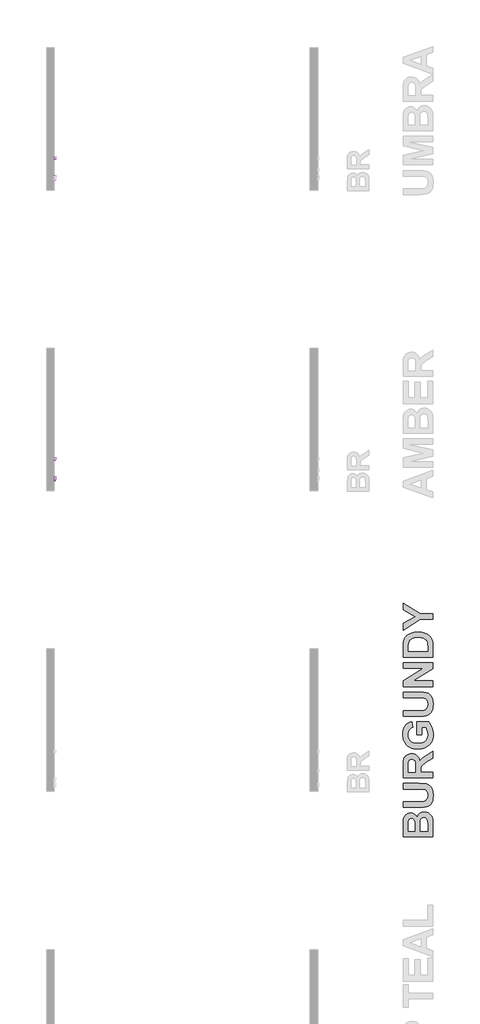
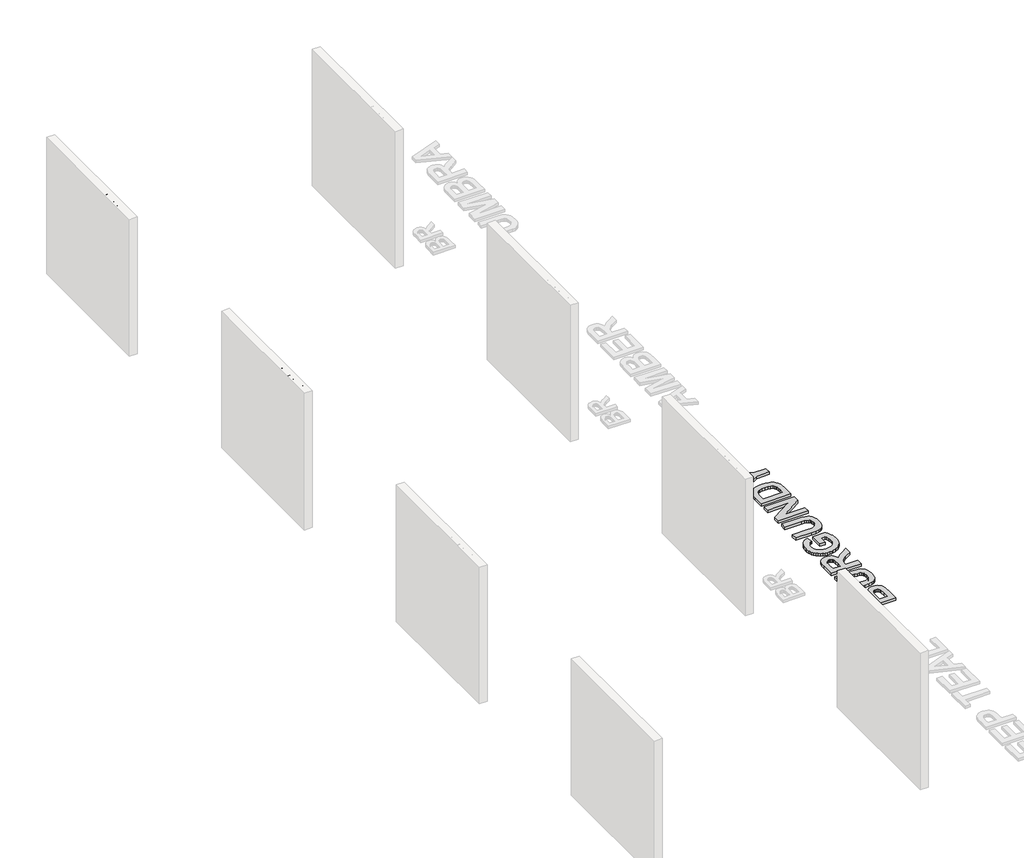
# One storey, part 7 of 10: 6 proxies.
"""IFC4 building model written with IfcOpenShell, lengths in millimetres."""

from ifc_helpers import new_model, si_unit, frame, origin, origin_with_axes, place, context, project, spatial, polyline, outline, extrude, element, save

model = new_model("IFC4")

# Units and contexts
model_context = context("Model", 3, world=origin())
ifc_project = project(units=[si_unit("LENGTHUNIT", "METRE", prefix="MILLI")], contexts=[model_context])

# Site, building, storey
site = spatial("IfcSite", under=ifc_project)
building = spatial("IfcBuilding", under=site)
storey = spatial("IfcBuildingStorey", under=building, Name="PORTOBELLO - SHOWROOM", Elevation=0.0)

# Proxies
placement = place(None, origin())
element("IfcBuildingElementProxy", 1, Name="10mm Arial", ObjectType="10mm Arial", at=placement, inside=storey, context=model_context, shape_type="SweptSolid", body=[
    extrude(outline(polyline([(9453.3480795, 2518.4745677), (9493.447217, 2618.9308778), (9504.1403203, 2618.9308778), (9544.2149323, 2518.4745677), (9530.9466551, 2518.4745677), (9519.4687368, 2549.8671646), (9478.0697496, 2549.8671646), (9466.5918314, 2518.4745677), (9453.3480795, 2518.4745677)]), holes=[polyline([(9482.6805373, 2562.4242034), (9514.8824746, 2562.4242034), (9505.808052, 2587.121348), (9498.7692432, 2606.373839), (9492.5152493, 2589.279589), (9482.6805373, 2562.4242034)])]), frame((-12116.0080774, 0.0, 0.0), z_axis=(1.0, 0.0, 0.0), x_axis=(0.0, 1.0, 0.0)), (0.0, 0.0, 1.0), 20.0),
    extrude(outline(polyline([(9556.0607326, 2518.4745677), (9556.0607326, 2592.2471704), (9568.6177714, 2592.2471704), (9568.6177714, 2580.1070646), (9577.2507355, 2590.0521412), (9589.5379942, 2593.8168003), (9602.1195584, 2589.9785648), (9609.0357399, 2579.2241478), (9618.8336637, 2590.1686372), (9631.2067615, 2593.8168003), (9640.6460003, 2592.299287), (9647.6265612, 2587.7467474), (9651.9399776, 2580.0365539), (9653.377783, 2569.0460793), (9653.377783, 2518.4745677), (9640.8207443, 2518.4745677), (9640.8207443, 2563.6504767), (9639.6557846, 2574.1351135), (9635.4374044, 2579.2977242), (9628.2637055, 2581.2597615), (9615.9151332, 2576.2320409), (9612.2271162, 2569.6898728), (9610.9977772, 2560.1188095), (9610.9977772, 2518.4745677), (9598.4407384, 2518.4745677), (9598.4407384, 2565.0484283), (9595.5344707, 2577.2130596), (9586.006327, 2581.2597615), (9576.7111753, 2578.5619602), (9570.5307577, 2570.66476), (9568.6177714, 2555.6797001), (9568.6177714, 2518.4745677), (9556.0607326, 2518.4745677)])), frame((-12116.0080774, 0.0, 0.0), z_axis=(1.0, 0.0, 0.0), x_axis=(0.0, 1.0, 0.0)), (0.0, 0.0, 1.0), 20.0),
    extrude(outline(polyline([(9684.77038, 2518.4745677), (9672.2133412, 2518.4745677), (9672.2133412, 2618.9308778), (9684.77038, 2618.9308778), (9684.77038, 2581.6766944), (9693.5627597, 2590.7817738), (9704.4888549, 2593.8168003), (9717.0704191, 2591.0822108), (9726.8315548, 2583.3934771), (9732.8280313, 2571.4373122), (9734.998535, 2556.464515), (9732.7513892, 2539.7013588), (9726.0099516, 2527.2301591), (9716.1169916, 2519.4862431), (9704.4152785, 2516.9049378), (9693.25006, 2520.2342699), (9684.77038, 2530.222266), (9684.77038, 2518.4745677)]), holes=[polyline([(9684.77038, 2555.8759038), (9688.2039453, 2538.3156699), (9694.7829016, 2531.6753999), (9703.336158, 2529.4619766), (9710.5834333, 2531.0929201), (9716.7761135, 2535.9857506), (9721.0251506, 2544.1098114), (9722.4414963, 2555.4344454), (9721.0833986, 2566.9246264), (9717.0091055, 2574.9567167), (9711.0095633, 2579.6840003), (9703.8757183, 2581.2597615), (9696.6284429, 2579.628818), (9690.4357627, 2574.7359875), (9686.1867257, 2566.7590795), (9684.77038, 2555.8759038)])]), frame((-12116.0080774, 0.0, 0.0), z_axis=(1.0, 0.0, 0.0), x_axis=(0.0, 1.0, 0.0)), (0.0, 0.0, 1.0), 20.0),
    extrude(outline(polyline([(9800.7758358, 2540.4493855), (9813.0876199, 2538.8797557), (9808.6515762, 2529.602998), (9801.5729134, 2522.6684224), (9792.0110472, 2518.345809), (9780.1253931, 2516.9049378), (9765.3917192, 2519.391207), (9754.0548224, 2526.8500144), (9746.8259412, 2538.7969822), (9744.4163141, 2554.7477324), (9746.8504667, 2571.2349771), (9754.1529243, 2583.5651553), (9765.3365369, 2591.253889), (9779.4141546, 2593.8168003), (9793.0533796, 2591.2600204), (9803.9518837, 2583.5896808), (9811.0979914, 2571.2840281), (9813.4800273, 2554.8213088), (9813.4064509, 2551.4367944), (9756.9733529, 2551.4367944), (9759.1469223, 2542.0374095), (9764.1961027, 2535.1273593), (9771.4832319, 2530.8783223), (9780.3706478, 2529.4619766), (9792.6824319, 2532.0862015), (9800.7758358, 2540.4493855)]), holes=[polyline([(9756.9733529, 2563.9938332), (9800.9229886, 2563.9938332), (9795.895268, 2575.3736496), (9788.5744163, 2579.7882335), (9779.3651037, 2581.2597615), (9763.9017971, 2576.5631347), (9759.0365577, 2571.0724959), (9756.9733529, 2563.9938332)])]), frame((-12116.0080774, 0.0, 0.0), z_axis=(1.0, 0.0, 0.0), x_axis=(0.0, 1.0, 0.0)), (0.0, 0.0, 1.0), 20.0),
    extrude(outline(polyline([(9826.0370661, 2518.4745677), (9826.0370661, 2592.2471704), (9837.024475, 2592.2471704), (9837.024475, 2581.3333379), (9844.8235733, 2591.3887791), (9852.6717226, 2593.8168003), (9865.2778123, 2589.9417766), (9861.0839575, 2578.6845875), (9852.2547896, 2581.2597615), (9845.1546671, 2578.7826894), (9840.6297186, 2571.9155588), (9838.5941049, 2557.24933), (9838.5941049, 2518.4745677), (9826.0370661, 2518.4745677)])), frame((-12116.0080774, 0.0, 0.0), z_axis=(1.0, 0.0, 0.0), x_axis=(0.0, 1.0, 0.0)), (0.0, 0.0, 1.0), 20.0),
])
element("IfcBuildingElementProxy", 2, Name="10mm Arial", ObjectType="10mm Arial", at=placement, inside=storey, context=model_context, shape_type="SweptSolid", body=[
    extrude(outline(polyline([(9460.313312, 2410.158275), (9472.8703507, 2411.7279049), (9479.1979211, 2398.7907214), (9492.3190456, 2394.4619766), (9501.3198917, 2395.9672271), (9508.064395, 2400.4829786), (9512.2766438, 2407.4880649), (9513.6807267, 2416.4613199), (9508.4200142, 2431.3728034), (9501.8134667, 2435.4746877), (9492.5152493, 2436.8419824), (9481.4910522, 2434.6592159), (9474.4399806, 2428.9938332), (9461.8829418, 2430.563463), (9472.8703507, 2482.361248), (9521.528876, 2482.361248), (9521.528876, 2469.8042092), (9483.0238938, 2469.8042092), (9477.6282912, 2442.1394832), (9486.5984805, 2447.5841367), (9495.9978655, 2449.3990212), (9507.7333012, 2447.1488097), (9517.482174, 2440.3981751), (9524.0488676, 2430.1097419), (9526.2377655, 2417.2461348), (9524.2695968, 2404.6890961), (9518.3650908, 2393.9469418), (9507.0588508, 2384.9154388), (9492.2699946, 2381.9049378), (9479.9367507, 2383.839384), (9470.1112358, 2389.6427224), (9463.3759296, 2398.6405029), (9460.313312, 2410.158275)])), frame((-12116.0080774, 0.0, 0.0), z_axis=(1.0, 0.0, 0.0), x_axis=(0.0, 1.0, 0.0)), (0.0, 0.0, 1.0), 20.0),
    extrude(outline(polyline([(9543.5036938, 2383.4745677), (9543.5036938, 2396.0316064), (9556.0607326, 2396.0316064), (9556.0607326, 2383.4745677), (9553.8043897, 2370.635486), (9546.6429535, 2363.0693797), (9543.5036938, 2367.7782692), (9548.1144815, 2373.1983973), (9549.7576877, 2383.4745677), (9543.5036938, 2383.4745677)])), frame((-12116.0080774, 0.0, 0.0), z_axis=(1.0, 0.0, 0.0), x_axis=(0.0, 1.0, 0.0)), (0.0, 0.0, 1.0), 20.0),
    extrude(outline(polyline([(9617.2762966, 2383.4745677), (9617.2762966, 2407.0190154), (9571.7570311, 2407.0190154), (9571.7570311, 2419.5760541), (9620.4155563, 2482.361248), (9629.8333354, 2482.361248), (9629.8333354, 2419.5760541), (9642.3903741, 2419.5760541), (9642.3903741, 2407.0190154), (9629.8333354, 2407.0190154), (9629.8333354, 2383.4745677), (9617.2762966, 2383.4745677)]), holes=[polyline([(9617.2762966, 2419.5760541), (9617.2762966, 2458.3753419), (9587.2080748, 2419.5760541), (9617.2762966, 2419.5760541)])]), frame((-12116.0080774, 0.0, 0.0), z_axis=(1.0, 0.0, 0.0), x_axis=(0.0, 1.0, 0.0)), (0.0, 0.0, 1.0), 20.0),
    extrude(outline(polyline([(9648.6688935, 2383.4745677), (9675.4997537, 2420.5815982), (9650.2385234, 2457.2471704), (9665.2971597, 2457.2471704), (9677.4863165, 2439.5643092), (9683.2007501, 2431.2501761), (9688.1548943, 2438.0682557), (9702.0363083, 2457.2471704), (9717.1439955, 2457.2471704), (9690.607441, 2420.5570728), (9716.1629769, 2383.4745677), (9701.0798151, 2383.4745677), (9685.6778222, 2405.792742), (9682.8819191, 2409.8884949), (9663.7765808, 2383.4745677), (9648.6688935, 2383.4745677)])), frame((-12116.0080774, 0.0, 0.0), z_axis=(1.0, 0.0, 0.0), x_axis=(0.0, 1.0, 0.0)), (0.0, 0.0, 1.0), 20.0),
    extrude(outline(polyline([(9771.1000215, 2383.4745677), (9758.5429827, 2383.4745677), (9758.5429827, 2461.7598562), (9746.6481316, 2453.2863076), (9733.4289052, 2446.9464746), (9733.4289052, 2458.8168003), (9751.8352677, 2470.5644987), (9763.0066176, 2483.9308778), (9771.1000215, 2483.9308778), (9771.1000215, 2383.4745677)])), frame((-12116.0080774, 0.0, 0.0), z_axis=(1.0, 0.0, 0.0), x_axis=(0.0, 1.0, 0.0)), (0.0, 0.0, 1.0), 20.0),
    extrude(outline(polyline([(9848.011884, 2383.4745677), (9835.4548452, 2383.4745677), (9835.4548452, 2461.7598562), (9823.559994, 2453.2863076), (9810.3407677, 2446.9464746), (9810.3407677, 2458.8168003), (9828.7471301, 2470.5644987), (9839.9184801, 2483.9308778), (9848.011884, 2483.9308778), (9848.011884, 2383.4745677)])), frame((-12116.0080774, 0.0, 0.0), z_axis=(1.0, 0.0, 0.0), x_axis=(0.0, 1.0, 0.0)), (0.0, 0.0, 1.0), 20.0),
    extrude(outline(polyline([(9884.1133704, 2383.4745677), (9884.1133704, 2396.0316064), (9896.6704092, 2396.0316064), (9896.6704092, 2383.4745677), (9894.4140663, 2370.635486), (9887.2526301, 2363.0693797), (9884.1133704, 2367.7782692), (9888.7241581, 2373.1983973), (9890.3673643, 2383.4745677), (9884.1133704, 2383.4745677)])), frame((-12116.0080774, 0.0, 0.0), z_axis=(1.0, 0.0, 0.0), x_axis=(0.0, 1.0, 0.0)), (0.0, 0.0, 1.0), 20.0),
    extrude(outline(polyline([(9917.0755972, 2410.158275), (9929.632636, 2411.7279049), (9935.9602063, 2398.7907214), (9949.0813308, 2394.4619766), (9958.0821769, 2395.9672271), (9964.8266802, 2400.4829786), (9969.038929, 2407.4880649), (9970.443012, 2416.4613199), (9965.1822994, 2431.3728034), (9958.5757519, 2435.4746877), (9949.2775345, 2436.8419824), (9938.2533374, 2434.6592159), (9931.2022658, 2428.9938332), (9918.645227, 2430.563463), (9929.632636, 2482.361248), (9978.2911612, 2482.361248), (9978.2911612, 2469.8042092), (9939.786179, 2469.8042092), (9934.3905764, 2442.1394832), (9943.3607657, 2447.5841367), (9952.7601507, 2449.3990212), (9964.4955864, 2447.1488097), (9974.2444592, 2440.3981751), (9980.8111529, 2430.1097419), (9983.0000507, 2417.2461348), (9981.0318821, 2404.6890961), (9975.127376, 2393.9469418), (9963.821136, 2384.9154388), (9949.0322798, 2381.9049378), (9936.6990359, 2383.839384), (9926.873521, 2389.6427224), (9920.1382148, 2398.6405029), (9917.0755972, 2410.158275)])), frame((-12116.0080774, 0.0, 0.0), z_axis=(1.0, 0.0, 0.0), x_axis=(0.0, 1.0, 0.0)), (0.0, 0.0, 1.0), 20.0),
])
element("IfcBuildingElementProxy", 3, Name="10mm Arial", ObjectType="10mm Arial", at=placement, inside=storey, context=model_context, shape_type="SweptSolid", body=[
    extrude(outline(polyline([(15230.9466551, 2618.9308778), (15243.5036938, 2618.9308778), (15243.5036938, 2560.9772008), (15240.094654, 2536.9545066), (15227.8073954, 2522.4844814), (15217.5434877, 2518.2998237), (15204.5082023, 2516.9049378), (15181.5646286, 2521.7609802), (15173.9249458, 2527.7053401), (15168.8359115, 2535.8263351), (15165.0222015, 2560.9772008), (15165.0222015, 2618.9308778), (15177.5792403, 2618.9308778), (15177.5792403, 2561.4186592), (15180.0563124, 2542.2765328), (15188.5666492, 2532.79744), (15203.3309799, 2529.4619766), (15216.1026165, 2531.1113142), (15224.5945593, 2536.059327), (15229.3586311, 2545.6978353), (15230.9466551, 2561.4186592), (15230.9466551, 2618.9308778)])), frame((-12116.0080774, 0.0, 0.0), z_axis=(1.0, 0.0, 0.0), x_axis=(0.0, 1.0, 0.0)), (0.0, 0.0, 1.0), 20.0),
    extrude(outline(polyline([(15263.9088818, 2518.4745677), (15263.9088818, 2592.2471704), (15276.4659206, 2592.2471704), (15276.4659206, 2580.1070646), (15285.0988847, 2590.0521412), (15297.3861434, 2593.8168003), (15309.9677076, 2589.9785648), (15316.8838891, 2579.2241478), (15326.6818129, 2590.1686372), (15339.0549107, 2593.8168003), (15348.4941496, 2592.299287), (15355.4747104, 2587.7467474), (15359.7881268, 2580.0365539), (15361.2259323, 2569.0460793), (15361.2259323, 2518.4745677), (15348.6688935, 2518.4745677), (15348.6688935, 2563.6504767), (15347.5039339, 2574.1351135), (15343.2855536, 2579.2977242), (15336.1118547, 2581.2597615), (15323.7632824, 2576.2320409), (15320.0752654, 2569.6898728), (15318.8459264, 2560.1188095), (15318.8459264, 2518.4745677), (15306.2888877, 2518.4745677), (15306.2888877, 2565.0484283), (15303.3826199, 2577.2130596), (15293.8544762, 2581.2597615), (15284.5593245, 2578.5619602), (15278.378907, 2570.66476), (15276.4659206, 2555.6797001), (15276.4659206, 2518.4745677), (15263.9088818, 2518.4745677)])), frame((-12116.0080774, 0.0, 0.0), z_axis=(1.0, 0.0, 0.0), x_axis=(0.0, 1.0, 0.0)), (0.0, 0.0, 1.0), 20.0),
    extrude(outline(polyline([(15392.6185292, 2518.4745677), (15380.0614904, 2518.4745677), (15380.0614904, 2618.9308778), (15392.6185292, 2618.9308778), (15392.6185292, 2581.6766944), (15401.4109089, 2590.7817738), (15412.3370041, 2593.8168003), (15424.9185684, 2591.0822108), (15434.679704, 2583.3934771), (15440.6761805, 2571.4373122), (15442.8466843, 2556.464515), (15440.5995384, 2539.7013588), (15433.8581009, 2527.2301591), (15423.9651409, 2519.4862431), (15412.2634277, 2516.9049378), (15401.0982092, 2520.2342699), (15392.6185292, 2530.222266), (15392.6185292, 2518.4745677)]), holes=[polyline([(15392.6185292, 2555.8759038), (15396.0520945, 2538.3156699), (15402.6310508, 2531.6753999), (15411.1843072, 2529.4619766), (15418.4315825, 2531.0929201), (15424.6242628, 2535.9857506), (15428.8732998, 2544.1098114), (15430.2896455, 2555.4344454), (15428.9315478, 2566.9246264), (15424.8572547, 2574.9567167), (15418.8577125, 2579.6840003), (15411.7238675, 2581.2597615), (15404.4765922, 2579.628818), (15398.2839119, 2574.7359875), (15394.0348749, 2566.7590795), (15392.6185292, 2555.8759038)])]), frame((-12116.0080774, 0.0, 0.0), z_axis=(1.0, 0.0, 0.0), x_axis=(0.0, 1.0, 0.0)), (0.0, 0.0, 1.0), 20.0),
    extrude(outline(polyline([(15456.9733529, 2518.4745677), (15456.9733529, 2592.2471704), (15467.9607618, 2592.2471704), (15467.9607618, 2581.3333379), (15475.7598601, 2591.3887791), (15483.6080093, 2593.8168003), (15496.214099, 2589.9417766), (15492.0202443, 2578.6845875), (15483.1910764, 2581.2597615), (15476.0909539, 2578.7826894), (15471.5660054, 2571.9155588), (15469.5303917, 2557.24933), (15469.5303917, 2518.4745677), (15456.9733529, 2518.4745677)])), frame((-12116.0080774, 0.0, 0.0), z_axis=(1.0, 0.0, 0.0), x_axis=(0.0, 1.0, 0.0)), (0.0, 0.0, 1.0), 20.0),
    extrude(outline(polyline([(15551.1511437, 2527.8923467), (15538.9742496, 2519.3820099), (15525.5220313, 2516.9049378), (15515.0281974, 2518.3948599), (15507.2873471, 2522.8646261), (15502.5140782, 2529.6520489), (15500.9229886, 2538.0949407), (15503.3264843, 2548.0277546), (15509.6417919, 2555.2382417), (15518.4341715, 2559.3585201), (15529.2989531, 2561.246981), (15551.0775673, 2565.563463), (15551.1511437, 2568.3593662), (15547.6930529, 2577.6299925), (15533.8116389, 2581.2597615), (15521.1074474, 2578.8440031), (15515.0496572, 2570.2723526), (15502.4926184, 2571.8419824), (15507.9250092, 2584.1047156), (15518.8633672, 2591.2906772), (15535.4303197, 2593.8168003), (15550.6483716, 2591.5849828), (15559.2445475, 2585.9809138), (15563.0950458, 2577.4583142), (15563.7081824, 2566.4709053), (15563.7081824, 2550.8481832), (15564.3458445, 2529.0327809), (15566.8474421, 2518.4745677), (15554.2904033, 2518.4745677), (15551.1511437, 2527.8923467)]), holes=[polyline([(15551.1511437, 2553.0064243), (15530.8931085, 2549.1559261), (15520.0896405, 2547.1203124), (15515.19681, 2543.8093744), (15513.4800273, 2538.9778575), (15517.220161, 2532.1843033), (15528.1953072, 2529.4619766), (15540.8994987, 2532.4663462), (15549.0910045, 2539.738147), (15551.0775673, 2549.4502317), (15551.1511437, 2553.0064243)])]), frame((-12116.0080774, 0.0, 0.0), z_axis=(1.0, 0.0, 0.0), x_axis=(0.0, 1.0, 0.0)), (0.0, 0.0, 1.0), 20.0),
])
element("IfcBuildingElementProxy", 4, Name="10mm Arial Narrow", ObjectType="10mm Arial Narrow", at=placement, inside=storey, context=model_context, shape_type="SweptSolid", body=[
    extrude(outline(polyline([(9946.9277964, 2518.4745677), (9946.9277964, 2615.7916181), (9977.1676964, 2615.7916181), (9992.9130458, 2613.9767336), (10003.9985566, 2604.8164719), (10008.1433604, 2588.3721467), (10006.4173807, 2576.7041561), (10001.2394416, 2567.402873), (9991.8247282, 2561.314426), (9977.3884256, 2559.2849437), (9956.3455754, 2559.2849437), (9956.3455754, 2518.4745677), (9946.9277964, 2518.4745677)]), holes=[polyline([(9956.3455754, 2570.2723526), (9978.5411225, 2570.2723526), (9993.869539, 2574.6501483), (9998.7255813, 2587.857112), (9996.3343483, 2597.6795612), (9990.558601, 2603.2836303), (9978.3203933, 2604.8042092), (9956.3455754, 2604.8042092), (9956.3455754, 2570.2723526)])]), frame((-12116.0080774, 0.0, 0.0), z_axis=(1.0, 0.0, 0.0), x_axis=(0.0, 1.0, 0.0)), (0.0, 0.0, 1.0), 20.0),
    extrude(outline(polyline([(10015.9915096, 2553.7912392), (10017.8799705, 2569.8216971), (10023.5453532, 2581.3701261), (10032.104741, 2588.350687), (10042.675217, 2590.6775406), (10053.1230656, 2588.350687), (10061.7069789, 2581.3701261), (10067.445938, 2570.0056381), (10069.3589244, 2554.5270032), (10067.4796605, 2537.9447223), (10061.8418689, 2526.2123523), (10053.2916782, 2519.2317914), (10042.675217, 2516.9049378), (10032.1813831, 2519.2379228), (10023.6066669, 2526.2368778), (10017.8952989, 2537.7914381), (10015.9915096, 2553.7912392)]), holes=[polyline([(10025.4092887, 2553.8157647), (10026.6692845, 2541.6879216), (10030.449272, 2533.1162711), (10036.093195, 2528.0211054), (10042.9449971, 2526.3227169), (10049.4381143, 2528.0364339), (10054.9379502, 2533.1775847), (10058.6903465, 2541.7645636), (10059.9411453, 2553.8157647), (10058.6811495, 2565.9068196), (10054.901162, 2574.4662073), (10049.257239, 2579.561373), (10042.4054369, 2581.2597615), (10035.8663344, 2579.5521759), (10030.3756956, 2574.4294191), (10026.6508904, 2565.8608343), (10025.4092887, 2553.8157647)])]), frame((-12116.0080774, 0.0, 0.0), z_axis=(1.0, 0.0, 0.0), x_axis=(0.0, 1.0, 0.0)), (0.0, 0.0, 1.0), 20.0),
    extrude(outline(polyline([(10138.4226376, 2526.3227169), (10139.9922674, 2516.9049378), (10132.8798822, 2516.9049378), (10124.8845802, 2518.9528143), (10120.7152509, 2524.5568833), (10119.5870794, 2538.7080774), (10119.5870794, 2579.6901317), (10111.7389302, 2579.6901317), (10111.7389302, 2582.8293914), (10110.1693004, 2578.1205018), (10102.8607114, 2579.6901317), (10096.9868622, 2577.4460515), (10093.2467286, 2571.1797948), (10091.3337422, 2556.2928368), (10091.3337422, 2518.4745677), (10081.9159631, 2518.4745677), (10081.9159631, 2589.1079107), (10091.3337422, 2589.1079107), (10091.3337422, 2579.7391826), (10097.3670069, 2588.5192995), (10103.5474244, 2590.6775406), (10111.7389302, 2589.1079107), (10119.5870794, 2589.1079107), (10119.5870794, 2604.8042092), (10129.0048585, 2612.6523584), (10129.0048585, 2589.1079107), (10138.4226376, 2589.1079107), (10138.4226376, 2579.6901317), (10129.0048585, 2579.6901317), (10129.0048585, 2536.5498364), (10129.8387244, 2528.8243145), (10134.3023592, 2526.3227169), (10138.4226376, 2526.3227169)])), frame((-12116.0080774, 0.0, 0.0), z_axis=(1.0, 0.0, 0.0), x_axis=(0.0, 1.0, 0.0)), (0.0, 0.0, 1.0), 20.0),
    extrude(outline(polyline([(10144.701157, 2553.7912392), (10146.5896179, 2569.8216971), (10152.2550006, 2581.3701261), (10160.8143884, 2588.350687), (10171.3848644, 2590.6775406), (10181.832713, 2588.350687), (10190.4166262, 2581.3701261), (10196.1555854, 2570.0056381), (10198.0685717, 2554.5270032), (10196.1893079, 2537.9447223), (10190.5515163, 2526.2123523), (10182.0013256, 2519.2317914), (10171.3848644, 2516.9049378), (10160.8910304, 2519.2379228), (10152.3163143, 2526.2368778), (10146.6049463, 2537.7914381), (10144.701157, 2553.7912392)]), holes=[polyline([(10154.1189361, 2553.8157647), (10155.3789319, 2541.6879216), (10159.1589194, 2533.1162711), (10164.8028423, 2528.0211054), (10171.6546445, 2526.3227169), (10178.1477617, 2528.0364339), (10183.6475975, 2533.1775847), (10187.3999939, 2541.7645636), (10188.6507927, 2553.8157647), (10187.3907968, 2565.9068196), (10183.6108093, 2574.4662073), (10177.9668864, 2579.561373), (10171.1150842, 2581.2597615), (10164.5759818, 2579.5521759), (10159.085343, 2574.4294191), (10155.3605378, 2565.8608343), (10154.1189361, 2553.8157647)])]), frame((-12116.0080774, 0.0, 0.0), z_axis=(1.0, 0.0, 0.0), x_axis=(0.0, 1.0, 0.0)), (0.0, 0.0, 1.0), 20.0),
    extrude(outline(polyline([(10220.0433896, 2518.4745677), (10210.6256105, 2518.4745677), (10210.6256105, 2615.7916181), (10220.0433896, 2615.7916181), (10220.0433896, 2581.5785926), (10227.192563, 2588.4211977), (10236.0830446, 2590.6775406), (10248.5297187, 2586.6185759), (10257.4937767, 2574.3190545), (10260.8537656, 2554.3307995), (10258.9867645, 2538.4321659), (10253.3857611, 2526.641548), (10245.2954229, 2519.3390904), (10235.9604172, 2516.9049378), (10226.9350456, 2519.4310609), (10220.0433896, 2526.9358536), (10220.0433896, 2518.4745677)]), holes=[polyline([(10220.0433896, 2554.3307995), (10222.0544778, 2537.6657451), (10227.744386, 2529.2289847), (10235.9113663, 2526.3227169), (10241.6533911, 2528.0517623), (10246.7148342, 2533.2388984), (10251.4359865, 2553.938392), (10246.8865125, 2574.6501483), (10241.818938, 2579.6073582), (10235.7151626, 2581.2597615), (10229.9394153, 2579.5307161), (10224.8258555, 2574.34358), (10220.0433896, 2554.3307995)])]), frame((-12116.0080774, 0.0, 0.0), z_axis=(1.0, 0.0, 0.0), x_axis=(0.0, 1.0, 0.0)), (0.0, 0.0, 1.0), 20.0),
    extrude(outline(polyline([(10311.0819207, 2540.4493855), (10320.4996997, 2538.8797557), (10311.3026499, 2522.4476932), (10294.8215365, 2516.9049378), (10283.6195297, 2519.2379228), (10274.7842305, 2526.2368778), (10269.0452713, 2537.6442853), (10267.132285, 2553.202628), (10269.0544684, 2569.3066623), (10274.8210187, 2581.0758205), (10283.5306249, 2588.2771106), (10294.2819762, 2590.6775406), (10304.6041319, 2588.359884), (10313.0562207, 2581.4069143), (10318.6940123, 2570.0638861), (10320.5732761, 2554.5760541), (10320.4996997, 2551.4367944), (10276.550064, 2551.4367944), (10282.3503368, 2532.6502872), (10288.0800989, 2527.9046095), (10294.9441638, 2526.3227169), (10304.7788758, 2529.854384), (10311.0819207, 2540.4493855)]), holes=[polyline([(10277.1877262, 2560.8545735), (10311.0819207, 2560.8545735), (10306.9616423, 2574.6378856), (10301.3330478, 2579.6042925), (10294.3555526, 2581.2597615), (10282.5588033, 2575.7415316), (10277.1877262, 2560.8545735)])]), frame((-12116.0080774, 0.0, 0.0), z_axis=(1.0, 0.0, 0.0), x_axis=(0.0, 1.0, 0.0)), (0.0, 0.0, 1.0), 20.0),
    extrude(outline(polyline([(-12096.0080774, 10342.4745176), (-12096.0080774, 10333.0567385), (-12116.0080774, 10333.0567385), (-12116.0080774, 10342.4745176), (-12096.0080774, 10342.4745176)])), frame((0.0, 0.0, 2518.4745677), z_axis=(0.0, 0.0, 1.0), x_axis=(1.0, 0.0, 0.0)), (0.0, 0.0, 1.0), 97.3170505),
    extrude(outline(polyline([(-12096.0080774, 10367.5885951), (-12096.0080774, 10358.170816), (-12116.0080774, 10358.170816), (-12116.0080774, 10367.5885951), (-12096.0080774, 10367.5885951)])), frame((0.0, 0.0, 2518.4745677), z_axis=(0.0, 0.0, 1.0), x_axis=(1.0, 0.0, 0.0)), (0.0, 0.0, 1.0), 97.3170505),
    extrude(outline(polyline([(10378.576004, 2553.7912392), (10380.464465, 2569.8216971), (10386.1298477, 2581.3701261), (10394.6892354, 2588.350687), (10405.2597114, 2590.6775406), (10415.7075601, 2588.350687), (10424.2914733, 2581.3701261), (10430.0304324, 2570.0056381), (10431.9434188, 2554.5270032), (10430.064155, 2537.9447223), (10424.4263634, 2526.2123523), (10415.8761727, 2519.2317914), (10405.2597114, 2516.9049378), (10394.7658775, 2519.2379228), (10386.1911613, 2526.2368778), (10380.4797934, 2537.7914381), (10378.576004, 2553.7912392)]), holes=[polyline([(10387.9937831, 2553.8157647), (10389.253779, 2541.6879216), (10393.0337665, 2533.1162711), (10398.6776894, 2528.0211054), (10405.5294916, 2526.3227169), (10412.0226088, 2528.0364339), (10417.5224446, 2533.1775847), (10421.274841, 2541.7645636), (10422.5256397, 2553.8157647), (10421.2656439, 2565.9068196), (10417.4856564, 2574.4662073), (10411.8417335, 2579.561373), (10404.9899313, 2581.2597615), (10398.4508288, 2579.5521759), (10392.9601901, 2574.4294191), (10389.2353849, 2565.8608343), (10387.9937831, 2553.8157647)])]), frame((-12116.0080774, 0.0, 0.0), z_axis=(1.0, 0.0, 0.0), x_axis=(0.0, 1.0, 0.0)), (0.0, 0.0, 1.0), 20.0),
])
element("IfcBuildingElementProxy", 5, Name="10mm Arial Narrow", ObjectType="10mm Arial Narrow", at=placement, inside=storey, context=model_context, shape_type="SweptSolid", body=[
    extrude(outline(polyline([(15646.9277964, 2518.4745677), (15646.9277964, 2615.7916181), (15677.1676964, 2615.7916181), (15692.9130458, 2613.9767336), (15703.9985566, 2604.8164719), (15708.1433604, 2588.3721467), (15706.4173807, 2576.7041561), (15701.2394416, 2567.402873), (15691.8247282, 2561.314426), (15677.3884256, 2559.2849437), (15656.3455754, 2559.2849437), (15656.3455754, 2518.4745677), (15646.9277964, 2518.4745677)]), holes=[polyline([(15656.3455754, 2570.2723526), (15678.5411225, 2570.2723526), (15693.869539, 2574.6501483), (15698.7255813, 2587.857112), (15696.3343483, 2597.6795612), (15690.558601, 2603.2836303), (15678.3203933, 2604.8042092), (15656.3455754, 2604.8042092), (15656.3455754, 2570.2723526)])]), frame((-12116.0080774, 0.0, 0.0), z_axis=(1.0, 0.0, 0.0), x_axis=(0.0, 1.0, 0.0)), (0.0, 0.0, 1.0), 20.0),
    extrude(outline(polyline([(15715.9915096, 2553.7912392), (15717.8799705, 2569.8216971), (15723.5453532, 2581.3701261), (15732.104741, 2588.350687), (15742.675217, 2590.6775406), (15753.1230656, 2588.350687), (15761.7069789, 2581.3701261), (15767.445938, 2570.0056381), (15769.3589244, 2554.5270032), (15767.4796605, 2537.9447223), (15761.8418689, 2526.2123523), (15753.2916782, 2519.2317914), (15742.675217, 2516.9049378), (15732.1813831, 2519.2379228), (15723.6066669, 2526.2368778), (15717.8952989, 2537.7914381), (15715.9915096, 2553.7912392)]), holes=[polyline([(15725.4092887, 2553.8157647), (15726.6692845, 2541.6879216), (15730.449272, 2533.1162711), (15736.093195, 2528.0211054), (15742.9449971, 2526.3227169), (15749.4381143, 2528.0364339), (15754.9379502, 2533.1775847), (15758.6903465, 2541.7645636), (15759.9411453, 2553.8157647), (15758.6811495, 2565.9068196), (15754.901162, 2574.4662073), (15749.257239, 2579.561373), (15742.4054369, 2581.2597615), (15735.8663344, 2579.5521759), (15730.3756956, 2574.4294191), (15726.6508904, 2565.8608343), (15725.4092887, 2553.8157647)])]), frame((-12116.0080774, 0.0, 0.0), z_axis=(1.0, 0.0, 0.0), x_axis=(0.0, 1.0, 0.0)), (0.0, 0.0, 1.0), 20.0),
    extrude(outline(polyline([(15838.4226376, 2526.3227169), (15839.9922674, 2516.9049378), (15832.8798822, 2516.9049378), (15824.8845802, 2518.9528143), (15820.7152509, 2524.5568833), (15819.5870794, 2538.7080774), (15819.5870794, 2579.6901317), (15811.7389302, 2579.6901317), (15811.7389302, 2582.8293914), (15810.1693004, 2578.1205018), (15802.8607114, 2579.6901317), (15796.9868622, 2577.4460515), (15793.2467286, 2571.1797948), (15791.3337422, 2556.2928368), (15791.3337422, 2518.4745677), (15781.9159631, 2518.4745677), (15781.9159631, 2589.1079107), (15791.3337422, 2589.1079107), (15791.3337422, 2579.7391826), (15797.3670069, 2588.5192995), (15803.5474244, 2590.6775406), (15811.7389302, 2589.1079107), (15819.5870794, 2589.1079107), (15819.5870794, 2604.8042092), (15829.0048585, 2612.6523584), (15829.0048585, 2589.1079107), (15838.4226376, 2589.1079107), (15838.4226376, 2579.6901317), (15829.0048585, 2579.6901317), (15829.0048585, 2536.5498364), (15829.8387244, 2528.8243145), (15834.3023592, 2526.3227169), (15838.4226376, 2526.3227169)])), frame((-12116.0080774, 0.0, 0.0), z_axis=(1.0, 0.0, 0.0), x_axis=(0.0, 1.0, 0.0)), (0.0, 0.0, 1.0), 20.0),
    extrude(outline(polyline([(15844.701157, 2553.7912392), (15846.5896179, 2569.8216971), (15852.2550006, 2581.3701261), (15860.8143884, 2588.350687), (15871.3848644, 2590.6775406), (15881.832713, 2588.350687), (15890.4166262, 2581.3701261), (15896.1555854, 2570.0056381), (15898.0685717, 2554.5270032), (15896.1893079, 2537.9447223), (15890.5515163, 2526.2123523), (15882.0013256, 2519.2317914), (15871.3848644, 2516.9049378), (15860.8910304, 2519.2379228), (15852.3163143, 2526.2368778), (15846.6049463, 2537.7914381), (15844.701157, 2553.7912392)]), holes=[polyline([(15854.1189361, 2553.8157647), (15855.3789319, 2541.6879216), (15859.1589194, 2533.1162711), (15864.8028423, 2528.0211054), (15871.6546445, 2526.3227169), (15878.1477617, 2528.0364339), (15883.6475975, 2533.1775847), (15887.3999939, 2541.7645636), (15888.6507927, 2553.8157647), (15887.3907968, 2565.9068196), (15883.6108093, 2574.4662073), (15877.9668864, 2579.561373), (15871.1150842, 2581.2597615), (15864.5759818, 2579.5521759), (15859.085343, 2574.4294191), (15855.3605378, 2565.8608343), (15854.1189361, 2553.8157647)])]), frame((-12116.0080774, 0.0, 0.0), z_axis=(1.0, 0.0, 0.0), x_axis=(0.0, 1.0, 0.0)), (0.0, 0.0, 1.0), 20.0),
    extrude(outline(polyline([(15920.0433896, 2518.4745677), (15910.6256105, 2518.4745677), (15910.6256105, 2615.7916181), (15920.0433896, 2615.7916181), (15920.0433896, 2581.5785926), (15927.192563, 2588.4211977), (15936.0830446, 2590.6775406), (15948.5297187, 2586.6185759), (15957.4937767, 2574.3190545), (15960.8537656, 2554.3307995), (15958.9867645, 2538.4321659), (15953.3857611, 2526.641548), (15945.2954229, 2519.3390904), (15935.9604172, 2516.9049378), (15926.9350456, 2519.4310609), (15920.0433896, 2526.9358536), (15920.0433896, 2518.4745677)]), holes=[polyline([(15920.0433896, 2554.3307995), (15922.0544778, 2537.6657451), (15927.744386, 2529.2289847), (15935.9113663, 2526.3227169), (15941.6533911, 2528.0517623), (15946.7148342, 2533.2388984), (15951.4359865, 2553.938392), (15946.8865125, 2574.6501483), (15941.818938, 2579.6073582), (15935.7151626, 2581.2597615), (15929.9394153, 2579.5307161), (15924.8258555, 2574.34358), (15920.0433896, 2554.3307995)])]), frame((-12116.0080774, 0.0, 0.0), z_axis=(1.0, 0.0, 0.0), x_axis=(0.0, 1.0, 0.0)), (0.0, 0.0, 1.0), 20.0),
    extrude(outline(polyline([(16011.0819207, 2540.4493855), (16020.4996997, 2538.8797557), (16011.3026499, 2522.4476932), (15994.8215365, 2516.9049378), (15983.6195297, 2519.2379228), (15974.7842305, 2526.2368778), (15969.0452713, 2537.6442853), (15967.132285, 2553.202628), (15969.0544684, 2569.3066623), (15974.8210187, 2581.0758205), (15983.5306249, 2588.2771106), (15994.2819762, 2590.6775406), (16004.6041319, 2588.359884), (16013.0562207, 2581.4069143), (16018.6940123, 2570.0638861), (16020.5732761, 2554.5760541), (16020.4996997, 2551.4367944), (15976.550064, 2551.4367944), (15982.3503368, 2532.6502872), (15988.0800989, 2527.9046095), (15994.9441638, 2526.3227169), (16004.7788758, 2529.854384), (16011.0819207, 2540.4493855)]), holes=[polyline([(15977.1877262, 2560.8545735), (16011.0819207, 2560.8545735), (16006.9616423, 2574.6378856), (16001.3330478, 2579.6042925), (15994.3555526, 2581.2597615), (15982.5588033, 2575.7415316), (15977.1877262, 2560.8545735)])]), frame((-12116.0080774, 0.0, 0.0), z_axis=(1.0, 0.0, 0.0), x_axis=(0.0, 1.0, 0.0)), (0.0, 0.0, 1.0), 20.0),
    extrude(outline(polyline([(-12096.0080774, 16042.4745176), (-12096.0080774, 16033.0567385), (-12116.0080774, 16033.0567385), (-12116.0080774, 16042.4745176), (-12096.0080774, 16042.4745176)])), frame((0.0, 0.0, 2518.4745677), z_axis=(0.0, 0.0, 1.0), x_axis=(1.0, 0.0, 0.0)), (0.0, 0.0, 1.0), 97.3170505),
    extrude(outline(polyline([(-12096.0080774, 16067.5885951), (-12096.0080774, 16058.170816), (-12116.0080774, 16058.170816), (-12116.0080774, 16067.5885951), (-12096.0080774, 16067.5885951)])), frame((0.0, 0.0, 2518.4745677), z_axis=(0.0, 0.0, 1.0), x_axis=(1.0, 0.0, 0.0)), (0.0, 0.0, 1.0), 97.3170505),
    extrude(outline(polyline([(16078.576004, 2553.7912392), (16080.464465, 2569.8216971), (16086.1298477, 2581.3701261), (16094.6892354, 2588.350687), (16105.2597114, 2590.6775406), (16115.7075601, 2588.350687), (16124.2914733, 2581.3701261), (16130.0304324, 2570.0056381), (16131.9434188, 2554.5270032), (16130.064155, 2537.9447223), (16124.4263634, 2526.2123523), (16115.8761727, 2519.2317914), (16105.2597114, 2516.9049378), (16094.7658775, 2519.2379228), (16086.1911613, 2526.2368778), (16080.4797934, 2537.7914381), (16078.576004, 2553.7912392)]), holes=[polyline([(16087.9937831, 2553.8157647), (16089.253779, 2541.6879216), (16093.0337665, 2533.1162711), (16098.6776894, 2528.0211054), (16105.5294916, 2526.3227169), (16112.0226088, 2528.0364339), (16117.5224446, 2533.1775847), (16121.274841, 2541.7645636), (16122.5256397, 2553.8157647), (16121.2656439, 2565.9068196), (16117.4856564, 2574.4662073), (16111.8417335, 2579.561373), (16104.9899313, 2581.2597615), (16098.4508288, 2579.5521759), (16092.9601901, 2574.4294191), (16089.2353849, 2565.8608343), (16087.9937831, 2553.8157647)])]), frame((-12116.0080774, 0.0, 0.0), z_axis=(1.0, 0.0, 0.0), x_axis=(0.0, 1.0, 0.0)), (0.0, 0.0, 1.0), 20.0),
])
element("IfcBuildingElementProxy", 6, Name="550mm Arial", ObjectType="550mm Arial", at=placement, inside=storey, context=model_context, shape_type="SweptSolid", body=[
    extrude(outline(polyline([(-5495.758546, 2811.5913828), (-5495.758546, 3041.9215214), (-5494.3668231, 3101.5742438), (-5490.1916545, 3143.8652232), (-5481.5803691, 3175.7008843), (-5466.880296, 3203.9876521), (-5446.2132111, 3228.2906131), (-5419.70089, 3248.1748539), (-5388.4741076, 3261.4310145), (-5353.6636388, 3265.8497347), (-5315.73919, 3260.5785842), (-5281.0157038, 3244.7651329), (-5252.0330746, 3219.9054827), (-5231.3311966, 3187.4957359), (-5222.5807389, 3209.3283887), (-5211.2208008, 3228.481975), (-5197.2513823, 3244.9564948), (-5180.6724833, 3258.7519479), (-5161.9973018, 3269.6508778), (-5141.7390354, 3277.4358277), (-5119.8976843, 3282.1067977), (-5096.4732484, 3283.6637877), (-5058.8793338, 3279.1928779), (-5022.3640044, 3265.7801485), (-4990.0064471, 3244.6259606), (-4964.8858489, 3216.930675), (-4947.5067093, 3182.3637577), (-4938.3735279, 3140.5946744), (-4934.615876, 3003.3707973), (-4934.615876, 2811.5913828), (-5495.758546, 2811.5913828)]), holes=[polyline([(-5397.7812544, 2918.4757009), (-5273.0828833, 2918.4757009), (-5273.0828833, 3000.0306623), (-5274.8921231, 3090.4926503), (-5281.3984276, 3118.97078), (-5294.2370713, 3140.6642605), (-5312.7817788, 3154.3901276), (-5336.4062749, 3158.9654166), (-5359.0043754, 3155.0164029), (-5376.9749972, 3143.1693618), (-5389.5526928, 3123.5634655), (-5395.9720147, 3096.3378864), (-5397.7812544, 2990.0102575), (-5397.7812544, 2918.4757009)]), polyline([(-5175.1055918, 2918.4757009), (-5032.5931676, 2918.4757009), (-5032.5931676, 3031.4835997), (-5035.9333026, 3115.2653178), (-5043.3964166, 3140.0031922), (-5057.1570767, 3159.661278), (-5076.9369383, 3172.4999217), (-5102.4576568, 3176.7794696), (-5124.5860508, 3173.4741277), (-5143.0959652, 3163.5581021), (-5157.5350902, 3147.4141166), (-5167.4511158, 3125.4248949), (-5173.1919728, 3085.8999648), (-5175.1055918, 3017.1488539), (-5175.1055918, 2918.4757009)])]), origin_with_axes(), (0.0, 0.0, 1.0), 50.0),
    extrude(outline(polyline([(-5495.758546, 3372.7340528), (-5495.758546, 3479.6183708), (-5193.0588171, 3479.6183708), (-5133.6322496, 3480.7665422), (-5099.5350387, 3484.2110564), (-5068.6561871, 3497.6063892), (-5044.4923984, 3521.9267468), (-5035.3896608, 3538.1838098), (-5028.8877054, 3557.172129), (-5023.6861411, 3603.3425359), (-5028.5919643, 3649.4607533), (-5034.7242433, 3667.6531809), (-5043.3094339, 3682.6011546), (-5065.1768798, 3703.9467045), (-5091.5326321, 3714.6803673), (-5129.5788567, 3718.7511567), (-5186.5177195, 3720.1080865), (-5495.758546, 3720.1080865), (-5495.758546, 3826.9924046), (-5201.4091544, 3826.9924046), (-5115.2267143, 3824.6612688), (-5058.757558, 3817.6678613), (-5020.3634027, 3804.4117007), (-4988.4059658, 3783.2923058), (-4962.6069027, 3754.0139355), (-4942.6878688, 3716.2808486), (-4929.9536044, 3667.9010816), (-4925.7088495, 3606.6826709), (-4930.3363282, 3534.9741489), (-4936.1206764, 3506.5047175), (-4944.218764, 3482.9585058), (-4965.5121242, 3445.2080223), (-4992.3723761, 3416.2949793), (-5022.7467282, 3395.975825), (-5054.5823893, 3384.0070082), (-5114.2177152, 3375.5522916), (-5196.8164689, 3372.7340528), (-5495.758546, 3372.7340528)])), origin_with_axes(), (0.0, 0.0, 1.0), 50.0),
    extrude(outline(polyline([(-4934.615876, 3933.8767227), (-5495.758546, 3933.8767227), (-5495.758546, 4169.9129252), (-5491.9661011, 4246.805615), (-5480.5887665, 4299.3431541), (-5471.5251712, 4318.514137), (-5459.5041647, 4335.6671216), (-5444.5257471, 4350.802108), (-5426.5899183, 4363.9190963), (-5406.4708242, 4374.5135868), (-5384.9426108, 4382.08108), (-5362.0052779, 4386.621576), (-5337.6588255, 4388.1350746), (-5307.3105682, 4385.9474602), (-5279.7283601, 4379.3846169), (-5254.9122013, 4368.4465448), (-5232.8620918, 4353.1332439), (-5214.1086258, 4333.4621106), (-5199.1823978, 4309.4505416), (-5188.0834077, 4281.0985368), (-5180.8116556, 4248.4060963), (-5158.4745032, 4279.4067237), (-5134.0497664, 4304.4925288), (-5098.6652119, 4330.4481608), (-5043.4486062, 4364.0582686), (-4934.615876, 4432.6702072), (-4934.615876, 4307.8326638), (-5062.7935544, 4226.5560469), (-5138.8512104, 4162.7455523), (-5152.0551814, 4145.0358785), (-5160.3533291, 4126.2824125), (-5164.7372562, 4101.3879693), (-5166.1985652, 4065.2553637), (-5166.1985652, 4040.7610408), (-4934.615876, 4040.7610408), (-4934.615876, 3933.8767227)]), holes=[polyline([(-5264.1758568, 4040.7610408), (-5264.1758568, 4128.8570999), (-5265.7937347, 4198.3910549), (-5270.6473683, 4235.8110041), (-5279.4500156, 4254.8428147), (-5292.9149345, 4269.2123535), (-5310.676798, 4278.2411558), (-5332.3702785, 4281.2507565), (-5356.3948949, 4277.2843463), (-5375.3049297, 4265.3851156), (-5388.648073, 4246.2489258), (-5395.9720147, 4220.5716384), (-5397.7812544, 4133.72813), (-5397.7812544, 4040.7610408), (-5264.1758568, 4040.7610408)])]), origin_with_axes(), (0.0, 0.0, 1.0), 50.0),
    extrude(outline(polyline([(-5139.4774857, 4753.3231614), (-5237.4547773, 4753.3231614), (-5237.4547773, 4993.8128771), (-5013.6657363, 4993.8128771), (-4996.7258592, 4974.3113601), (-4980.8384726, 4950.8782259), (-4952.2211706, 4892.217106), (-4940.6220302, 4858.8505497), (-4932.3369298, 4825.2752349), (-4927.3658696, 4791.4911617), (-4925.7088495, 4757.4983301), (-4928.0138906, 4715.5987728), (-4934.9290137, 4676.4652647), (-4946.4542189, 4640.0978059), (-4962.5895062, 4606.4963963), (-4983.0086905, 4576.2786131), (-5007.3855868, 4550.0620331), (-5035.720195, 4527.8466564), (-5068.0125152, 4509.6324831), (-5103.0360916, 4495.4456078), (-5139.5644684, 4485.3121255), (-5177.5976456, 4479.2320362), (-5217.1356231, 4477.2053397), (-5259.6223135, 4479.4973333), (-5299.6821871, 4486.3733142), (-5337.3152439, 4497.8332824), (-5372.521484, 4513.8772379), (-5404.5354596, 4534.3399135), (-5432.5917233, 4559.0560423), (-5456.690275, 4588.0256241), (-5476.8311147, 4621.248659), (-5489.00869, 4649.8311679), (-5497.7069581, 4681.7190186), (-5502.9259189, 4716.9122113), (-5504.6655725, 4755.4107458), (-5501.8560319, 4804.6820853), (-5493.4274102, 4848.2560592), (-5479.3797072, 4886.1326675), (-5459.7129231, 4918.3119103), (-5435.0881262, 4945.0286406), (-5406.1663849, 4966.5177119), (-5372.9476991, 4982.7791241), (-5335.4320689, 4993.8128771), (-5317.6180159, 4886.928559), (-5337.1934682, 4879.3001779), (-5354.5856552, 4868.9405407), (-5369.7945769, 4855.8496472), (-5382.8202334, 4840.0274976), (-5393.2625042, 4821.7698329), (-5400.7212691, 4801.3723943), (-5405.196528, 4778.8351817), (-5406.688281, 4754.1581952), (-5403.7743611, 4717.1818576), (-5395.0326017, 4684.1893268), (-5380.4630027, 4655.1806028), (-5360.0655641, 4630.1556855), (-5333.9272685, 4610.0017984), (-5302.1350987, 4595.6061647), (-5264.6890546, 4586.9687845), (-5221.5891363, 4584.0896578), (-5175.2056218, 4586.951388), (-5135.0065759, 4595.5365786), (-5100.9919986, 4609.8452295), (-5073.1618899, 4629.8773409), (-5051.5162498, 4654.5543274), (-5036.0550783, 4682.7976039), (-5026.7783754, 4714.6071702), (-5023.6861411, 4749.9830265), (-5027.0784657, 4786.6723212), (-5037.2554393, 4823.5355813), (-5052.26865, 4857.8589471), (-5070.1696857, 4886.928559), (-5139.4774857, 4886.928559), (-5139.4774857, 4753.3231614)])), origin_with_axes(), (0.0, 0.0, 1.0), 50.0),
    extrude(outline(polyline([(-5495.758546, 5100.6971952), (-5495.758546, 5207.5815133), (-5193.0588171, 5207.5815133), (-5133.6322496, 5208.7296847), (-5099.5350387, 5212.1741989), (-5068.6561871, 5225.5695317), (-5044.4923984, 5249.8898892), (-5035.3896608, 5266.1469523), (-5028.8877054, 5285.1352715), (-5023.6861411, 5331.3056784), (-5028.5919643, 5377.4238957), (-5034.7242433, 5395.6163234), (-5043.3094339, 5410.5642971), (-5065.1768798, 5431.9098469), (-5091.5326321, 5442.6435097), (-5129.5788567, 5446.7142992), (-5186.5177195, 5448.071229), (-5495.758546, 5448.071229), (-5495.758546, 5554.9555471), (-5201.4091544, 5554.9555471), (-5115.2267143, 5552.6244113), (-5058.757558, 5545.6310037), (-5020.3634027, 5532.3748432), (-4988.4059658, 5511.2554483), (-4962.6069027, 5481.977078), (-4942.6878688, 5444.2439911), (-4929.9536044, 5395.864224), (-4925.7088495, 5334.6458133), (-4930.3363282, 5262.9372913), (-4936.1206764, 5234.4678599), (-4944.218764, 5210.9216483), (-4965.5121242, 5173.1711648), (-4992.3723761, 5144.2581217), (-5022.7467282, 5123.9389675), (-5054.5823893, 5111.9701506), (-5114.2177152, 5103.5154341), (-5196.8164689, 5100.6971952), (-5495.758546, 5100.6971952)])), origin_with_axes(), (0.0, 0.0, 1.0), 50.0),
    extrude(outline(polyline([(-4934.615876, 5661.8398652), (-5495.758546, 5661.8398652), (-5495.758546, 5773.873558), (-5118.0449532, 6009.213899), (-5495.758546, 6009.213899), (-5495.758546, 6116.0982171), (-4934.615876, 6116.0982171), (-4934.615876, 6000.5852171), (-5306.7625773, 5768.7241833), (-4934.615876, 5768.7241833), (-4934.615876, 5661.8398652)])), origin_with_axes(), (0.0, 0.0, 1.0), 50.0),
    extrude(outline(polyline([(-5495.758546, 6222.9825352), (-5495.758546, 6430.7667629), (-5493.0794795, 6492.6984316), (-5485.0422798, 6537.9294256), (-5476.3309643, 6561.8148697), (-5464.8101082, 6583.9258672), (-5450.4797116, 6604.2624179), (-5433.3397743, 6622.824522), (-5392.0751906, 6653.9469252), (-5342.4602695, 6676.6146118), (-5282.3900302, 6690.444858), (-5209.7594918, 6695.0549401), (-5145.3227219, 6690.7405991), (-5090.3496676, 6677.7975762), (-5061.1930731, 6666.0897074), (-5034.9590965, 6652.1202889), (-5011.6477381, 6635.8893206), (-4991.2589977, 6617.3968027), (-4965.7208827, 6582.6733166), (-4946.4455206, 6537.5119087), (-4937.5732872, 6493.5682584), (-4934.615876, 6436.8903436), (-4934.615876, 6222.9825352), (-5495.758546, 6222.9825352)]), holes=[polyline([(-5397.7812544, 6329.8668533), (-5032.5931676, 6329.8668533), (-5032.5931676, 6420.8855304), (-5033.9153044, 6464.8639738), (-5037.8817146, 6494.6468437), (-5046.94531, 6521.7680435), (-5060.7755562, 6543.8442479), (-5082.1906922, 6561.6061113), (-5114.0089568, 6575.7842882), (-5157.7786418, 6585.0740386), (-5215.0480387, 6588.170622), (-5271.5171951, 6585.0740386), (-5313.1645026, 6575.7842882), (-5343.643234, 6560.9450429), (-5366.6066617, 6541.1999744), (-5382.6810611, 6515.9923935), (-5392.4927075, 6484.7656111), (-5396.4591177, 6446.9455415), (-5397.7812544, 6384.7007352), (-5397.7812544, 6329.8668533)])]), origin_with_axes(), (0.0, 0.0, 1.0), 50.0),
    extrude(outline(polyline([(-4934.615876, 6935.5446558), (-5170.7912508, 6935.5446558), (-5495.758546, 6735.1365594), (-5495.758546, 6858.9998967), (-5265.4284074, 6988.8476425), (-5495.758546, 7118.8345606), (-5495.758546, 7242.8370703), (-5169.9562171, 7042.4289739), (-4934.615876, 7042.4289739), (-4934.615876, 6935.5446558)])), origin_with_axes(), (0.0, 0.0, 1.0), 50.0),
])

save(model, "model.ifc")
